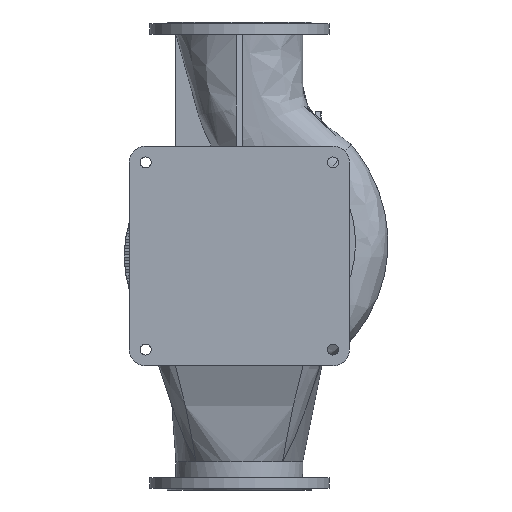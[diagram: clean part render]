
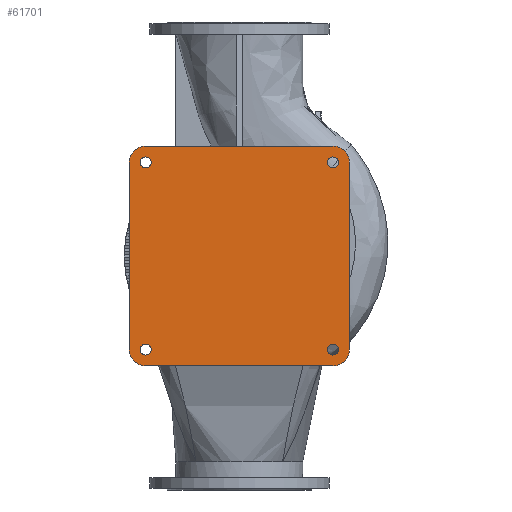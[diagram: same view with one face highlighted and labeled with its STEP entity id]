
A CAD part, front view. The second image highlights one B-rep face of the part: STEP entity #61701.
In plain terms, the highlighted planar face has unit normal (0, -1, 0).
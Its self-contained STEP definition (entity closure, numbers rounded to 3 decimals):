
#599 = DIRECTION ( 'NONE',  ( 0., 0., -1. ) ) ;
#1123 = DIRECTION ( 'NONE',  ( 0., 1., 0. ) ) ;
#1546 = EDGE_CURVE ( 'NONE', #62859, #9749, #10951, .T. ) ;
#1914 = CARTESIAN_POINT ( 'NONE',  ( 240., -290., 240. ) ) ;
#2643 = DIRECTION ( 'NONE',  ( 0., 1., 0. ) ) ;
#3147 = AXIS2_PLACEMENT_3D ( 'NONE', #43615, #44829, #599 ) ;
#3328 = ORIENTED_EDGE ( 'NONE', *, *, #20054, .F. ) ;
#3441 = CIRCLE ( 'NONE', #42478, 42. ) ;
#3774 = CARTESIAN_POINT ( 'NONE',  ( 240., -290., 226. ) ) ;
#4073 = VECTOR ( 'NONE', #57351, 1000. ) ;
#4428 = CIRCLE ( 'NONE', #3147, 42. ) ;
#5172 = CIRCLE ( 'NONE', #52308, 14. ) ;
#5575 = CARTESIAN_POINT ( 'NONE',  ( 282., -290., 240. ) ) ;
#6827 = DIRECTION ( 'NONE',  ( 0., 0., 1. ) ) ;
#6885 = AXIS2_PLACEMENT_3D ( 'NONE', #32150, #76403, #39504 ) ;
#8384 = DIRECTION ( 'NONE',  ( 0., 0., -1. ) ) ;
#8803 = FACE_OUTER_BOUND ( 'NONE', #26900, .T. ) ;
#9749 = VERTEX_POINT ( 'NONE', #57849 ) ;
#10951 = LINE ( 'NONE', #23633, #46541 ) ;
#11434 = VERTEX_POINT ( 'NONE', #5575 ) ;
#12976 = CARTESIAN_POINT ( 'NONE',  ( -240., -290., -240. ) ) ;
#13294 = EDGE_CURVE ( 'NONE', #16237, #60175, #29136, .T. ) ;
#13652 = ORIENTED_EDGE ( 'NONE', *, *, #34202, .T. ) ;
#13794 = CIRCLE ( 'NONE', #43847, 14. ) ;
#14133 = AXIS2_PLACEMENT_3D ( 'NONE', #77209, #2643, #51830 ) ;
#14521 = ORIENTED_EDGE ( 'NONE', *, *, #29457, .T. ) ;
#15399 = CARTESIAN_POINT ( 'NONE',  ( -240., -290., -254. ) ) ;
#16237 = VERTEX_POINT ( 'NONE', #28137 ) ;
#16344 = EDGE_CURVE ( 'NONE', #9749, #20956, #19528, .T. ) ;
#17123 = VERTEX_POINT ( 'NONE', #57854 ) ;
#17540 = CIRCLE ( 'NONE', #21469, 14. ) ;
#19528 = CIRCLE ( 'NONE', #66651, 42. ) ;
#20054 = EDGE_CURVE ( 'NONE', #20956, #17123, #37569, .T. ) ;
#20572 = DIRECTION ( 'NONE',  ( 0., 1., 0. ) ) ;
#20956 = VERTEX_POINT ( 'NONE', #72959 ) ;
#21469 = AXIS2_PLACEMENT_3D ( 'NONE', #54667, #78839, #54264 ) ;
#21990 = CIRCLE ( 'NONE', #14133, 14. ) ;
#22889 = ORIENTED_EDGE ( 'NONE', *, *, #37357, .F. ) ;
#23494 = VERTEX_POINT ( 'NONE', #53510 ) ;
#23581 = DIRECTION ( 'NONE',  ( 0., 1., 0. ) ) ;
#23633 = CARTESIAN_POINT ( 'NONE',  ( -282., -290., -240. ) ) ;
#24300 = EDGE_CURVE ( 'NONE', #60175, #16237, #5172, .T. ) ;
#24530 = VERTEX_POINT ( 'NONE', #49247 ) ;
#24760 = LINE ( 'NONE', #67012, #72201 ) ;
#25028 = CARTESIAN_POINT ( 'NONE',  ( -240., -290., 240. ) ) ;
#25192 = AXIS2_PLACEMENT_3D ( 'NONE', #25028, #73851, #67701 ) ;
#26028 = ORIENTED_EDGE ( 'NONE', *, *, #16344, .F. ) ;
#26900 = EDGE_LOOP ( 'NONE', ( #61804, #22889, #58141, #3328, #26028, #58811, #28539, #61093 ) ) ;
#27672 = EDGE_CURVE ( 'NONE', #23494, #34659, #17540, .T. ) ;
#28137 = CARTESIAN_POINT ( 'NONE',  ( -240., -290., 226. ) ) ;
#28539 = ORIENTED_EDGE ( 'NONE', *, *, #41284, .F. ) ;
#29136 = CIRCLE ( 'NONE', #25192, 14. ) ;
#29171 = CARTESIAN_POINT ( 'NONE',  ( -240., -290., 240. ) ) ;
#29457 = EDGE_CURVE ( 'NONE', #24530, #69022, #13794, .T. ) ;
#29977 = DIRECTION ( 'NONE',  ( 0., 0., 1. ) ) ;
#30632 = CARTESIAN_POINT ( 'NONE',  ( 240., -290., 282. ) ) ;
#32150 = CARTESIAN_POINT ( 'NONE',  ( 240., -290., -240. ) ) ;
#33677 = CARTESIAN_POINT ( 'NONE',  ( 240., -290., 240. ) ) ;
#34202 = EDGE_CURVE ( 'NONE', #66480, #60132, #59353, .T. ) ;
#34659 = VERTEX_POINT ( 'NONE', #3774 ) ;
#34859 = AXIS2_PLACEMENT_3D ( 'NONE', #33677, #20572, #46383 ) ;
#35442 = DIRECTION ( 'NONE',  ( 0., 0., -1. ) ) ;
#37357 = EDGE_CURVE ( 'NONE', #11434, #63247, #24760, .T. ) ;
#37569 = LINE ( 'NONE', #30632, #49071 ) ;
#37920 = CARTESIAN_POINT ( 'NONE',  ( 240., -290., -240. ) ) ;
#38024 = ORIENTED_EDGE ( 'NONE', *, *, #24300, .T. ) ;
#38274 = FACE_BOUND ( 'NONE', #57675, .T. ) ;
#38905 = LINE ( 'NONE', #45471, #4073 ) ;
#39504 = DIRECTION ( 'NONE',  ( 0., 0., -1. ) ) ;
#41284 = EDGE_CURVE ( 'NONE', #62792, #62859, #3441, .T. ) ;
#42478 = AXIS2_PLACEMENT_3D ( 'NONE', #46479, #64069, #8384 ) ;
#43615 = CARTESIAN_POINT ( 'NONE',  ( 240., -290., -240. ) ) ;
#43847 = AXIS2_PLACEMENT_3D ( 'NONE', #37920, #80171, #62904 ) ;
#44141 = CARTESIAN_POINT ( 'NONE',  ( 240., -290., -240. ) ) ;
#44547 = CARTESIAN_POINT ( 'NONE',  ( -240., -290., -226. ) ) ;
#44627 = EDGE_CURVE ( 'NONE', #60132, #66480, #21990, .T. ) ;
#44829 = DIRECTION ( 'NONE',  ( 0., 1., 0. ) ) ;
#45471 = CARTESIAN_POINT ( 'NONE',  ( -240., -290., -282. ) ) ;
#46383 = DIRECTION ( 'NONE',  ( 0., 0., -1. ) ) ;
#46479 = CARTESIAN_POINT ( 'NONE',  ( -240., -290., -240. ) ) ;
#46541 = VECTOR ( 'NONE', #62519, 1000. ) ;
#47082 = EDGE_CURVE ( 'NONE', #17123, #11434, #72836, .T. ) ;
#47627 = DIRECTION ( 'NONE',  ( 0., 1., 0. ) ) ;
#48588 = DIRECTION ( 'NONE',  ( 0., 0., -1. ) ) ;
#49071 = VECTOR ( 'NONE', #62165, 1000. ) ;
#49247 = CARTESIAN_POINT ( 'NONE',  ( 240., -290., -254. ) ) ;
#49488 = EDGE_CURVE ( 'NONE', #63247, #66541, #4428, .T. ) ;
#51814 = FACE_BOUND ( 'NONE', #68726, .T. ) ;
#51828 = CARTESIAN_POINT ( 'NONE',  ( -240., -290., -282. ) ) ;
#51830 = DIRECTION ( 'NONE',  ( 0., 0., 1. ) ) ;
#52081 = EDGE_CURVE ( 'NONE', #34659, #23494, #52839, .T. ) ;
#52209 = FACE_BOUND ( 'NONE', #72477, .T. ) ;
#52308 = AXIS2_PLACEMENT_3D ( 'NONE', #29171, #47627, #29977 ) ;
#52707 = DIRECTION ( 'NONE',  ( 0., 1., 0. ) ) ;
#52813 = AXIS2_PLACEMENT_3D ( 'NONE', #12976, #62164, #6827 ) ;
#52839 = CIRCLE ( 'NONE', #61932, 14. ) ;
#52892 = EDGE_CURVE ( 'NONE', #69022, #24530, #62055, .T. ) ;
#53510 = CARTESIAN_POINT ( 'NONE',  ( 240., -290., 254. ) ) ;
#54264 = DIRECTION ( 'NONE',  ( 0., 0., 1. ) ) ;
#54667 = CARTESIAN_POINT ( 'NONE',  ( 240., -290., 240. ) ) ;
#55528 = AXIS2_PLACEMENT_3D ( 'NONE', #44141, #1123, #69143 ) ;
#55831 = EDGE_CURVE ( 'NONE', #66541, #62792, #38905, .T. ) ;
#57351 = DIRECTION ( 'NONE',  ( -1., 0., 0. ) ) ;
#57549 = PLANE ( 'NONE',  #6885 ) ;
#57675 = EDGE_LOOP ( 'NONE', ( #65214, #38024 ) ) ;
#57849 = CARTESIAN_POINT ( 'NONE',  ( -282., -290., 240. ) ) ;
#57854 = CARTESIAN_POINT ( 'NONE',  ( 240., -290., 282. ) ) ;
#57959 = FACE_BOUND ( 'NONE', #61041, .T. ) ;
#58141 = ORIENTED_EDGE ( 'NONE', *, *, #47082, .F. ) ;
#58811 = ORIENTED_EDGE ( 'NONE', *, *, #1546, .F. ) ;
#59353 = CIRCLE ( 'NONE', #52813, 14. ) ;
#59803 = ORIENTED_EDGE ( 'NONE', *, *, #52081, .T. ) ;
#60132 = VERTEX_POINT ( 'NONE', #44547 ) ;
#60175 = VERTEX_POINT ( 'NONE', #69557 ) ;
#61041 = EDGE_LOOP ( 'NONE', ( #13652, #76669 ) ) ;
#61093 = ORIENTED_EDGE ( 'NONE', *, *, #55831, .F. ) ;
#61701 = ADVANCED_FACE ( 'NONE', ( #57959, #51814, #52209, #38274, #8803 ), #57549, .T. ) ;
#61804 = ORIENTED_EDGE ( 'NONE', *, *, #49488, .F. ) ;
#61932 = AXIS2_PLACEMENT_3D ( 'NONE', #1914, #52707, #77695 ) ;
#62055 = CIRCLE ( 'NONE', #55528, 14. ) ;
#62164 = DIRECTION ( 'NONE',  ( 0., 1., 0. ) ) ;
#62165 = DIRECTION ( 'NONE',  ( 1., 0., 0. ) ) ;
#62519 = DIRECTION ( 'NONE',  ( 0., 0., 1. ) ) ;
#62792 = VERTEX_POINT ( 'NONE', #51828 ) ;
#62859 = VERTEX_POINT ( 'NONE', #70663 ) ;
#62904 = DIRECTION ( 'NONE',  ( 0., 0., 1. ) ) ;
#63247 = VERTEX_POINT ( 'NONE', #73397 ) ;
#64069 = DIRECTION ( 'NONE',  ( 0., 1., 0. ) ) ;
#65214 = ORIENTED_EDGE ( 'NONE', *, *, #13294, .T. ) ;
#66030 = ORIENTED_EDGE ( 'NONE', *, *, #52892, .T. ) ;
#66480 = VERTEX_POINT ( 'NONE', #15399 ) ;
#66541 = VERTEX_POINT ( 'NONE', #78885 ) ;
#66651 = AXIS2_PLACEMENT_3D ( 'NONE', #78513, #23581, #48588 ) ;
#67012 = CARTESIAN_POINT ( 'NONE',  ( 282., -290., -240. ) ) ;
#67701 = DIRECTION ( 'NONE',  ( 0., 0., 1. ) ) ;
#68726 = EDGE_LOOP ( 'NONE', ( #59803, #72667 ) ) ;
#69022 = VERTEX_POINT ( 'NONE', #78381 ) ;
#69143 = DIRECTION ( 'NONE',  ( 0., 0., 1. ) ) ;
#69557 = CARTESIAN_POINT ( 'NONE',  ( -240., -290., 254. ) ) ;
#70663 = CARTESIAN_POINT ( 'NONE',  ( -282., -290., -240. ) ) ;
#72201 = VECTOR ( 'NONE', #35442, 1000. ) ;
#72477 = EDGE_LOOP ( 'NONE', ( #14521, #66030 ) ) ;
#72667 = ORIENTED_EDGE ( 'NONE', *, *, #27672, .T. ) ;
#72836 = CIRCLE ( 'NONE', #34859, 42. ) ;
#72959 = CARTESIAN_POINT ( 'NONE',  ( -240., -290., 282. ) ) ;
#73397 = CARTESIAN_POINT ( 'NONE',  ( 282., -290., -240. ) ) ;
#73851 = DIRECTION ( 'NONE',  ( 0., 1., 0. ) ) ;
#76403 = DIRECTION ( 'NONE',  ( 0., -1., 0. ) ) ;
#76669 = ORIENTED_EDGE ( 'NONE', *, *, #44627, .T. ) ;
#77209 = CARTESIAN_POINT ( 'NONE',  ( -240., -290., -240. ) ) ;
#77695 = DIRECTION ( 'NONE',  ( 0., 0., 1. ) ) ;
#78381 = CARTESIAN_POINT ( 'NONE',  ( 240., -290., -226. ) ) ;
#78513 = CARTESIAN_POINT ( 'NONE',  ( -240., -290., 240. ) ) ;
#78839 = DIRECTION ( 'NONE',  ( 0., 1., 0. ) ) ;
#78885 = CARTESIAN_POINT ( 'NONE',  ( 240., -290., -282. ) ) ;
#80171 = DIRECTION ( 'NONE',  ( 0., 1., 0. ) ) ;
